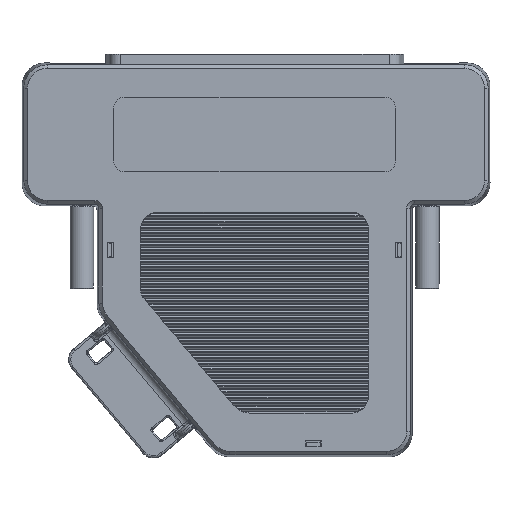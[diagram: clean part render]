
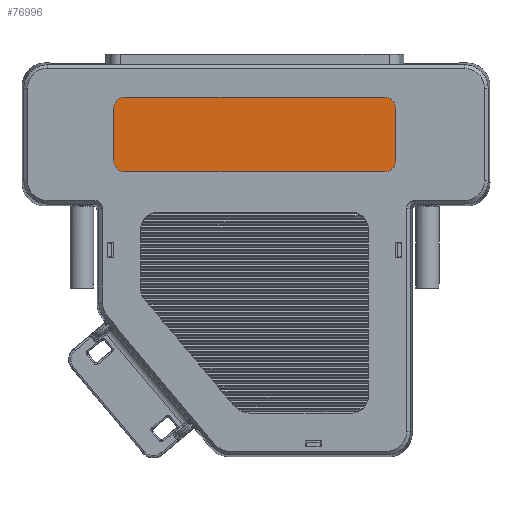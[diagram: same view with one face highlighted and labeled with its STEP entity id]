
A CAD part, front view. The second image highlights one B-rep face of the part: STEP entity #76996.
In plain terms, the highlighted planar face has unit normal (0, -1, 0).
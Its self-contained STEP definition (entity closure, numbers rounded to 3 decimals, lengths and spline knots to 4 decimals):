
#26390=DIRECTION('',(1.,0.,0.));
#26391=VECTOR('',#26390,1.88);
#26392=CARTESIAN_POINT('',(-0.94,0.006,-0.788));
#26393=LINE('',#26392,#26391);
#26394=CARTESIAN_POINT('',(-0.94,0.006,-0.708));
#26395=DIRECTION('',(0.,-1.,0.));
#26396=DIRECTION('',(-1.,0.,0.));
#26397=AXIS2_PLACEMENT_3D('',#26394,#26395,#26396);
#26399=DIRECTION('',(0.,0.,-1.));
#26400=VECTOR('',#26399,0.38);
#26401=CARTESIAN_POINT('',(-1.02,0.006,-0.328));
#26402=LINE('',#26401,#26400);
#26403=CARTESIAN_POINT('',(-0.94,0.006,-0.328));
#26404=DIRECTION('',(0.,-1.,0.));
#26405=DIRECTION('',(0.,0.,1.));
#26406=AXIS2_PLACEMENT_3D('',#26403,#26404,#26405);
#26408=DIRECTION('',(-1.,0.,0.));
#26409=VECTOR('',#26408,1.88);
#26410=CARTESIAN_POINT('',(0.94,0.006,-0.248));
#26411=LINE('',#26410,#26409);
#26412=CARTESIAN_POINT('',(0.94,0.006,-0.328));
#26413=DIRECTION('',(0.,-1.,0.));
#26414=DIRECTION('',(1.,0.,0.));
#26415=AXIS2_PLACEMENT_3D('',#26412,#26413,#26414);
#26417=DIRECTION('',(0.,0.,1.));
#26418=VECTOR('',#26417,0.38);
#26419=CARTESIAN_POINT('',(1.02,0.006,-0.708));
#26420=LINE('',#26419,#26418);
#26421=CARTESIAN_POINT('',(0.94,0.006,-0.708));
#26422=DIRECTION('',(0.,-1.,0.));
#26423=DIRECTION('',(0.,0.,-1.));
#26424=AXIS2_PLACEMENT_3D('',#26421,#26422,#26423);
#37458=CARTESIAN_POINT('',(-0.94,0.006,-0.788));
#37459=CARTESIAN_POINT('',(0.94,0.006,-0.788));
#37460=VERTEX_POINT('',#37458);
#37461=VERTEX_POINT('',#37459);
#37462=CARTESIAN_POINT('',(1.02,0.006,-0.708));
#37463=VERTEX_POINT('',#37462);
#37464=CARTESIAN_POINT('',(1.02,0.006,-0.328));
#37465=VERTEX_POINT('',#37464);
#37466=CARTESIAN_POINT('',(0.94,0.006,-0.248));
#37467=VERTEX_POINT('',#37466);
#37468=CARTESIAN_POINT('',(-0.94,0.006,-0.248));
#37469=VERTEX_POINT('',#37468);
#37470=CARTESIAN_POINT('',(-1.02,0.006,-0.328));
#37471=VERTEX_POINT('',#37470);
#37472=CARTESIAN_POINT('',(-1.02,0.006,-0.708));
#37473=VERTEX_POINT('',#37472);
#76981=CARTESIAN_POINT('',(0.,0.006,0.));
#76982=DIRECTION('',(0.,-1.,0.));
#76983=DIRECTION('',(-1.,0.,0.));
#76984=AXIS2_PLACEMENT_3D('',#76981,#76982,#76983);
#76985=PLANE('',#76984);
#76986=ORIENTED_EDGE('',*,*,#76877,.F.);
#76987=ORIENTED_EDGE('',*,*,#76892,.F.);
#76988=ORIENTED_EDGE('',*,*,#76906,.F.);
#76989=ORIENTED_EDGE('',*,*,#76920,.F.);
#76990=ORIENTED_EDGE('',*,*,#76934,.F.);
#76991=ORIENTED_EDGE('',*,*,#76948,.F.);
#76992=ORIENTED_EDGE('',*,*,#76962,.F.);
#76993=ORIENTED_EDGE('',*,*,#76975,.F.);
#76994=EDGE_LOOP('',(#76986,#76987,#76988,#76989,#76990,#76991,#76992,#76993));
#76995=FACE_OUTER_BOUND('',#76994,.F.);
#76996=ADVANCED_FACE('',(#76995),#76985,.T.);
#26398=CIRCLE('',#26397,0.08);
#26407=CIRCLE('',#26406,0.08);
#26416=CIRCLE('',#26415,0.08);
#26425=CIRCLE('',#26424,0.08);
#76877=EDGE_CURVE('',#37460,#37461,#26393,.T.);
#76892=EDGE_CURVE('',#37473,#37460,#26398,.T.);
#76906=EDGE_CURVE('',#37471,#37473,#26402,.T.);
#76920=EDGE_CURVE('',#37469,#37471,#26407,.T.);
#76934=EDGE_CURVE('',#37467,#37469,#26411,.T.);
#76948=EDGE_CURVE('',#37465,#37467,#26416,.T.);
#76962=EDGE_CURVE('',#37463,#37465,#26420,.T.);
#76975=EDGE_CURVE('',#37461,#37463,#26425,.T.);
